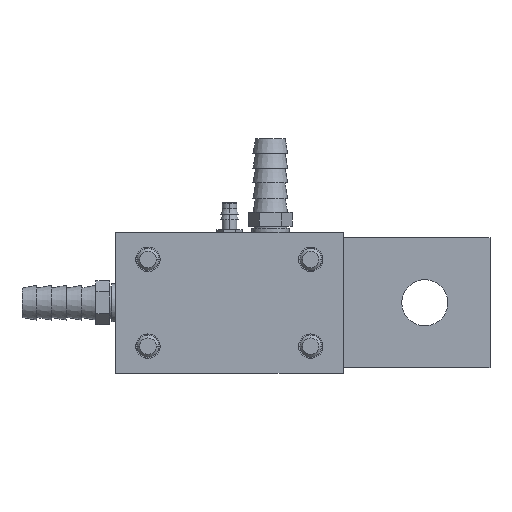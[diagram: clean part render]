
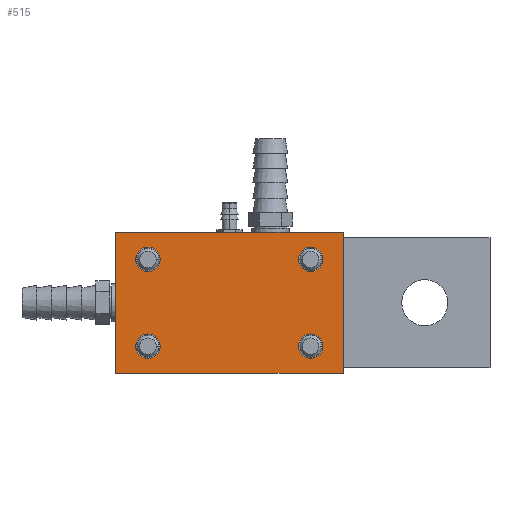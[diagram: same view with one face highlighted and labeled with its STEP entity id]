
A CAD part, left-side view. The second image highlights one B-rep face of the part: STEP entity #515.
In plain terms, the highlighted planar face has unit normal (-1, 0, 0).
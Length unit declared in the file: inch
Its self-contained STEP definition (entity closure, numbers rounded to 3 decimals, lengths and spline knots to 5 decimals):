
#250=CARTESIAN_POINT('',(-2.8125,-0.935,-0.5));
#251=DIRECTION('',(1.,0.,0.));
#252=DIRECTION('',(0.,-1.,0.));
#253=AXIS2_PLACEMENT_3D('',#250,#251,#252);
#255=CARTESIAN_POINT('',(-2.8125,-0.935,-0.5));
#256=DIRECTION('',(1.,0.,0.));
#257=DIRECTION('',(0.,1.,0.));
#258=AXIS2_PLACEMENT_3D('',#255,#256,#257);
#260=CARTESIAN_POINT('',(-2.8125,-0.935,0.5));
#261=DIRECTION('',(1.,0.,0.));
#262=DIRECTION('',(0.,-1.,0.));
#263=AXIS2_PLACEMENT_3D('',#260,#261,#262);
#265=CARTESIAN_POINT('',(-2.8125,-0.935,0.5));
#266=DIRECTION('',(1.,0.,0.));
#267=DIRECTION('',(0.,1.,0.));
#268=AXIS2_PLACEMENT_3D('',#265,#266,#267);
#270=CARTESIAN_POINT('',(-2.8125,0.94,-0.5));
#271=DIRECTION('',(1.,0.,0.));
#272=DIRECTION('',(0.,-1.,0.));
#273=AXIS2_PLACEMENT_3D('',#270,#271,#272);
#275=CARTESIAN_POINT('',(-2.8125,0.94,-0.5));
#276=DIRECTION('',(1.,0.,0.));
#277=DIRECTION('',(0.,1.,0.));
#278=AXIS2_PLACEMENT_3D('',#275,#276,#277);
#280=CARTESIAN_POINT('',(-2.8125,0.94,0.5));
#281=DIRECTION('',(1.,0.,0.));
#282=DIRECTION('',(0.,-1.,0.));
#283=AXIS2_PLACEMENT_3D('',#280,#281,#282);
#285=CARTESIAN_POINT('',(-2.8125,0.94,0.5));
#286=DIRECTION('',(1.,0.,0.));
#287=DIRECTION('',(0.,1.,0.));
#288=AXIS2_PLACEMENT_3D('',#285,#286,#287);
#318=DIRECTION('',(0.,-1.,0.));
#319=VECTOR('',#318,2.625);
#320=CARTESIAN_POINT('',(-2.8125,1.315,0.8125));
#321=LINE('',#320,#319);
#326=DIRECTION('',(0.,0.,-1.));
#327=VECTOR('',#326,1.625);
#328=CARTESIAN_POINT('',(-2.8125,-1.31,0.8125));
#329=LINE('',#328,#327);
#338=DIRECTION('',(0.,1.,0.));
#339=VECTOR('',#338,2.625);
#340=CARTESIAN_POINT('',(-2.8125,-1.31,-0.8125));
#341=LINE('',#340,#339);
#354=DIRECTION('',(0.,0.,1.));
#355=VECTOR('',#354,1.625);
#356=CARTESIAN_POINT('',(-2.8125,1.315,-0.8125));
#357=LINE('',#356,#355);
#368=CARTESIAN_POINT('',(-2.8125,1.315,-0.8125));
#369=VERTEX_POINT('',#368);
#370=CARTESIAN_POINT('',(-2.8125,1.315,0.8125));
#371=VERTEX_POINT('',#370);
#374=CARTESIAN_POINT('',(-2.8125,-1.31,-0.8125));
#375=VERTEX_POINT('',#374);
#376=CARTESIAN_POINT('',(-2.8125,-1.31,0.8125));
#377=VERTEX_POINT('',#376);
#378=CARTESIAN_POINT('',(-2.8125,-1.07563,-0.5));
#380=VERTEX_POINT('',#378);
#382=CARTESIAN_POINT('',(-2.8125,-0.79438,-0.5));
#384=VERTEX_POINT('',#382);
#386=CARTESIAN_POINT('',(-2.8125,-1.07563,0.5));
#388=VERTEX_POINT('',#386);
#390=CARTESIAN_POINT('',(-2.8125,-0.79438,0.5));
#392=VERTEX_POINT('',#390);
#394=CARTESIAN_POINT('',(-2.8125,0.79938,-0.5));
#396=VERTEX_POINT('',#394);
#398=CARTESIAN_POINT('',(-2.8125,1.08063,-0.5));
#400=VERTEX_POINT('',#398);
#402=CARTESIAN_POINT('',(-2.8125,0.79938,0.5));
#404=VERTEX_POINT('',#402);
#406=CARTESIAN_POINT('',(-2.8125,1.08063,0.5));
#408=VERTEX_POINT('',#406);
#478=CARTESIAN_POINT('',(-2.8125,0.0025,0.));
#479=DIRECTION('',(-1.,0.,0.));
#480=DIRECTION('',(0.,1.,0.));
#481=AXIS2_PLACEMENT_3D('',#478,#479,#480);
#482=PLANE('',#481);
#484=ORIENTED_EDGE('',*,*,#483,.T.);
#486=ORIENTED_EDGE('',*,*,#485,.T.);
#488=ORIENTED_EDGE('',*,*,#487,.T.);
#490=ORIENTED_EDGE('',*,*,#489,.T.);
#491=EDGE_LOOP('',(#484,#486,#488,#490));
#492=FACE_OUTER_BOUND('',#491,.F.);
#494=ORIENTED_EDGE('',*,*,#493,.F.);
#496=ORIENTED_EDGE('',*,*,#495,.F.);
#497=EDGE_LOOP('',(#494,#496));
#498=FACE_BOUND('',#497,.F.);
#500=ORIENTED_EDGE('',*,*,#499,.F.);
#502=ORIENTED_EDGE('',*,*,#501,.F.);
#503=EDGE_LOOP('',(#500,#502));
#504=FACE_BOUND('',#503,.F.);
#506=ORIENTED_EDGE('',*,*,#505,.F.);
#508=ORIENTED_EDGE('',*,*,#507,.F.);
#509=EDGE_LOOP('',(#506,#508));
#510=FACE_BOUND('',#509,.F.);
#511=ORIENTED_EDGE('',*,*,#419,.F.);
#512=ORIENTED_EDGE('',*,*,#472,.F.);
#513=EDGE_LOOP('',(#511,#512));
#514=FACE_BOUND('',#513,.F.);
#254=CIRCLE('',#253,0.14063);
#259=CIRCLE('',#258,0.14063);
#264=CIRCLE('',#263,0.14063);
#269=CIRCLE('',#268,0.14063);
#274=CIRCLE('',#273,0.14063);
#279=CIRCLE('',#278,0.14063);
#284=CIRCLE('',#283,0.14063);
#289=CIRCLE('',#288,0.14063);
#419=EDGE_CURVE('',#380,#384,#254,.T.);
#472=EDGE_CURVE('',#384,#380,#259,.T.);
#483=EDGE_CURVE('',#371,#377,#321,.T.);
#485=EDGE_CURVE('',#377,#375,#329,.T.);
#487=EDGE_CURVE('',#375,#369,#341,.T.);
#489=EDGE_CURVE('',#369,#371,#357,.T.);
#493=EDGE_CURVE('',#388,#392,#264,.T.);
#495=EDGE_CURVE('',#392,#388,#269,.T.);
#499=EDGE_CURVE('',#396,#400,#274,.T.);
#501=EDGE_CURVE('',#400,#396,#279,.T.);
#505=EDGE_CURVE('',#404,#408,#284,.T.);
#507=EDGE_CURVE('',#408,#404,#289,.T.);
#515=ADVANCED_FACE('',(#492,#498,#504,#510,#514),#482,.T.);
